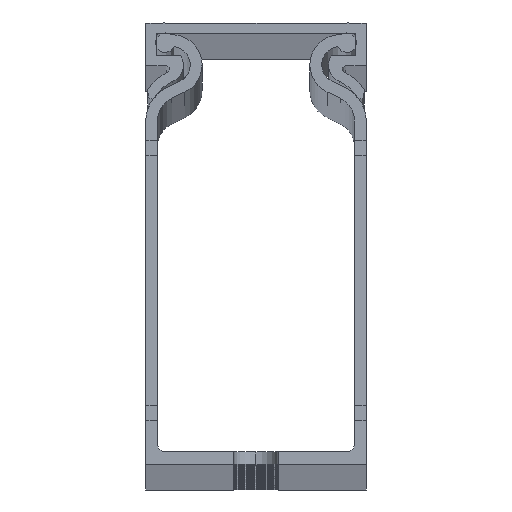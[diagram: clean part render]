
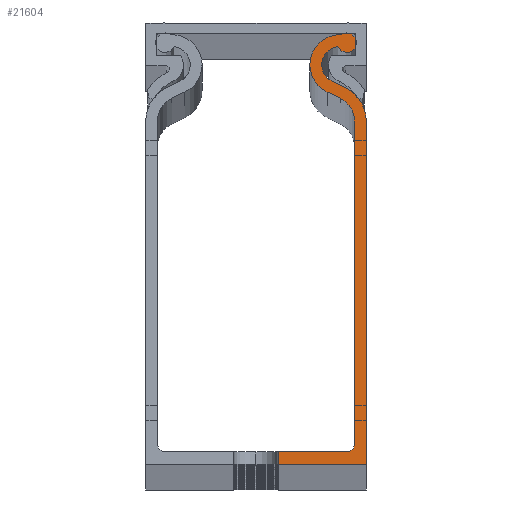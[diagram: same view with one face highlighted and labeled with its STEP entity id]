
A CAD part, top view. The second image highlights one B-rep face of the part: STEP entity #21604.
In plain terms, the highlighted planar face has unit normal (0, 0, 1).
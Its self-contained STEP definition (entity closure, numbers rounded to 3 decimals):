
#107 = DIRECTION ( 'NONE',  ( -0.902, 0.431, 0. ) ) ;
#129 = EDGE_CURVE ( 'NONE', #26634, #10740, #43241, .T. ) ;
#1235 = VERTEX_POINT ( 'NONE', #43440 ) ;
#1735 = CARTESIAN_POINT ( 'NONE',  ( 2575.735, 1291.403, 2000. ) ) ;
#1909 = VERTEX_POINT ( 'NONE', #62178 ) ;
#2011 = CARTESIAN_POINT ( 'NONE',  ( 2579.835, 1291.403, 2000. ) ) ;
#3157 = DIRECTION ( 'NONE',  ( 1., 0., 0. ) ) ;
#3216 = EDGE_CURVE ( 'NONE', #30120, #39913, #60066, .T. ) ;
#3667 = ORIENTED_EDGE ( 'NONE', *, *, #60479, .T. ) ;
#5154 = CARTESIAN_POINT ( 'NONE',  ( 2583.407, 1283.773, 2000. ) ) ;
#5250 = CARTESIAN_POINT ( 'NONE',  ( 2580.757, 1294.406, 2000. ) ) ;
#6027 = EDGE_CURVE ( 'NONE', #38761, #1235, #53145, .T. ) ;
#6162 = DIRECTION ( 'NONE',  ( 1., 0., 0. ) ) ;
#6236 = CARTESIAN_POINT ( 'NONE',  ( 2581.807, 1239.756, 2000. ) ) ;
#6532 = ORIENTED_EDGE ( 'NONE', *, *, #29014, .T. ) ;
#6972 = VECTOR ( 'NONE', #107, 1000. ) ;
#7489 = CARTESIAN_POINT ( 'NONE',  ( 2581.807, 1283.757, 2000. ) ) ;
#9539 = DIRECTION ( 'NONE',  ( 0., -1., 0. ) ) ;
#9692 = CARTESIAN_POINT ( 'NONE',  ( 2578.407, 1283.773, 2000. ) ) ;
#10447 = LINE ( 'NONE', #61932, #21378 ) ;
#10604 = ORIENTED_EDGE ( 'NONE', *, *, #49047, .T. ) ;
#10740 = VERTEX_POINT ( 'NONE', #61675 ) ;
#11398 = CIRCLE ( 'NONE', #18970, 4.1 ) ;
#13336 = PLANE ( 'NONE',  #54721 ) ;
#13870 = ORIENTED_EDGE ( 'NONE', *, *, #129, .T. ) ;
#14141 = DIRECTION ( 'NONE',  ( 0., 0., -1. ) ) ;
#14230 = ORIENTED_EDGE ( 'NONE', *, *, #48244, .T. ) ;
#14289 = CIRCLE ( 'NONE', #25862, 2.5 ) ;
#15825 = DIRECTION ( 'NONE',  ( 0., 0., 1. ) ) ;
#15908 = ORIENTED_EDGE ( 'NONE', *, *, #6027, .T. ) ;
#16112 = ORIENTED_EDGE ( 'NONE', *, *, #61823, .T. ) ;
#16254 = VERTEX_POINT ( 'NONE', #61279 ) ;
#17068 = VECTOR ( 'NONE', #9539, 1000. ) ;
#17217 = CARTESIAN_POINT ( 'NONE',  ( 2583.407, 1237.056, 2000. ) ) ;
#17649 = ORIENTED_EDGE ( 'NONE', *, *, #29771, .T. ) ;
#18636 = LINE ( 'NONE', #33661, #17068 ) ;
#18970 = AXIS2_PLACEMENT_3D ( 'NONE', #2011, #60881, #6162 ) ;
#19787 = ORIENTED_EDGE ( 'NONE', *, *, #51794, .T. ) ;
#19874 = ORIENTED_EDGE ( 'NONE', *, *, #37401, .T. ) ;
#20162 = EDGE_LOOP ( 'NONE', ( #15908, #3667, #10604, #17649, #19874, #61068, #19787, #14230, #13870, #16112, #27792, #40885, #27658, #24804, #6532 ) ) ;
#21378 = VECTOR ( 'NONE', #32348, 1000. ) ;
#21604 = ADVANCED_FACE ( 'NONE', ( #28072 ), #13336, .F. ) ;
#22004 = EDGE_CURVE ( 'NONE', #39913, #63444, #24102, .T. ) ;
#22195 = AXIS2_PLACEMENT_3D ( 'NONE', #39585, #14141, #48671 ) ;
#22797 = LINE ( 'NONE', #37305, #44572 ) ;
#23006 = CARTESIAN_POINT ( 'NONE',  ( 2571.407, 1237.056, 2000. ) ) ;
#23669 = LINE ( 'NONE', #17217, #60212 ) ;
#24085 = CARTESIAN_POINT ( 'NONE',  ( 2578.758, 1289.147, 2000. ) ) ;
#24102 = LINE ( 'NONE', #36727, #48175 ) ;
#24434 = CARTESIAN_POINT ( 'NONE',  ( 2556.007, 1238.756, 2000. ) ) ;
#24804 = ORIENTED_EDGE ( 'NONE', *, *, #53473, .T. ) ;
#25862 = AXIS2_PLACEMENT_3D ( 'NONE', #32665, #46765, #3157 ) ;
#26139 = CIRCLE ( 'NONE', #22195, 1. ) ;
#26634 = VERTEX_POINT ( 'NONE', #38549 ) ;
#26707 = AXIS2_PLACEMENT_3D ( 'NONE', #51150, #60929, #56553 ) ;
#27020 = CARTESIAN_POINT ( 'NONE',  ( 2583.407, 1237.056, 2000. ) ) ;
#27658 = ORIENTED_EDGE ( 'NONE', *, *, #48941, .T. ) ;
#27792 = ORIENTED_EDGE ( 'NONE', *, *, #3216, .T. ) ;
#28072 = FACE_OUTER_BOUND ( 'NONE', #20162, .T. ) ;
#28999 = CARTESIAN_POINT ( 'NONE',  ( 2579.873, 1286.841, 2000. ) ) ;
#29014 = EDGE_CURVE ( 'NONE', #52311, #38761, #26139, .T. ) ;
#29771 = EDGE_CURVE ( 'NONE', #32117, #42671, #10447, .T. ) ;
#30120 = VERTEX_POINT ( 'NONE', #1735 ) ;
#30816 = AXIS2_PLACEMENT_3D ( 'NONE', #41229, #15825, #61277 ) ;
#32117 = VERTEX_POINT ( 'NONE', #27020 ) ;
#32295 = AXIS2_PLACEMENT_3D ( 'NONE', #57516, #37718, #53362 ) ;
#32348 = DIRECTION ( 'NONE',  ( 0., 1., 0. ) ) ;
#32665 = CARTESIAN_POINT ( 'NONE',  ( 2579.835, 1291.403, 2000. ) ) ;
#33661 = CARTESIAN_POINT ( 'NONE',  ( 2571.407, 1294.406, 2000. ) ) ;
#36727 = CARTESIAN_POINT ( 'NONE',  ( 2579.873, 1286.841, 2000. ) ) ;
#37305 = CARTESIAN_POINT ( 'NONE',  ( 2581.807, 1239.756, 2000. ) ) ;
#37401 = EDGE_CURVE ( 'NONE', #42671, #16254, #56496, .T. ) ;
#37718 = DIRECTION ( 'NONE',  ( 0., 0., -1. ) ) ;
#38549 = CARTESIAN_POINT ( 'NONE',  ( 2579.513, 1293.882, 2000. ) ) ;
#38761 = VERTEX_POINT ( 'NONE', #55553 ) ;
#39585 = CARTESIAN_POINT ( 'NONE',  ( 2580.807, 1239.756, 2000. ) ) ;
#39913 = VERTEX_POINT ( 'NONE', #51309 ) ;
#40188 = DIRECTION ( 'NONE',  ( 1., 0., 0. ) ) ;
#40714 = CIRCLE ( 'NONE', #26707, 3.4 ) ;
#40885 = ORIENTED_EDGE ( 'NONE', *, *, #22004, .T. ) ;
#41229 = CARTESIAN_POINT ( 'NONE',  ( 2579.835, 1291.403, 2000. ) ) ;
#42264 = VECTOR ( 'NONE', #59199, 1000. ) ;
#42671 = VERTEX_POINT ( 'NONE', #5154 ) ;
#42841 = DIRECTION ( 'NONE',  ( -1., 0., 0. ) ) ;
#43241 = CIRCLE ( 'NONE', #49357, 1.35 ) ;
#43440 = CARTESIAN_POINT ( 'NONE',  ( 2571.407, 1238.756, 2000. ) ) ;
#43889 = VERTEX_POINT ( 'NONE', #23006 ) ;
#44572 = VECTOR ( 'NONE', #56839, 1000. ) ;
#44978 = DIRECTION ( 'NONE',  ( 0., 0., 1. ) ) ;
#46765 = DIRECTION ( 'NONE',  ( 0., 0., -1. ) ) ;
#46964 = DIRECTION ( 'NONE',  ( 1., 0., 0. ) ) ;
#48175 = VECTOR ( 'NONE', #56503, 1000. ) ;
#48244 = EDGE_CURVE ( 'NONE', #1909, #26634, #14289, .T. ) ;
#48671 = DIRECTION ( 'NONE',  ( 1., 0., 0. ) ) ;
#48941 = EDGE_CURVE ( 'NONE', #63444, #57254, #40714, .T. ) ;
#49047 = EDGE_CURVE ( 'NONE', #43889, #32117, #23669, .T. ) ;
#49219 = DIRECTION ( 'NONE',  ( 0., 0., 1. ) ) ;
#49357 = AXIS2_PLACEMENT_3D ( 'NONE', #5250, #44978, #40188 ) ;
#51150 = CARTESIAN_POINT ( 'NONE',  ( 2578.407, 1283.773, 2000. ) ) ;
#51309 = CARTESIAN_POINT ( 'NONE',  ( 2578.068, 1287.703, 2000. ) ) ;
#51794 = EDGE_CURVE ( 'NONE', #51969, #1909, #64432, .T. ) ;
#51969 = VERTEX_POINT ( 'NONE', #24085 ) ;
#52179 = AXIS2_PLACEMENT_3D ( 'NONE', #9692, #49219, #54456 ) ;
#52311 = VERTEX_POINT ( 'NONE', #6236 ) ;
#53145 = LINE ( 'NONE', #24434, #42264 ) ;
#53362 = DIRECTION ( 'NONE',  ( 1., 0., 0. ) ) ;
#53473 = EDGE_CURVE ( 'NONE', #57254, #52311, #22797, .T. ) ;
#54456 = DIRECTION ( 'NONE',  ( 1., 0., 0. ) ) ;
#54721 = AXIS2_PLACEMENT_3D ( 'NONE', #57633, #62659, #42841 ) ;
#55220 = CARTESIAN_POINT ( 'NONE',  ( 2578.758, 1289.147, 2000. ) ) ;
#55553 = CARTESIAN_POINT ( 'NONE',  ( 2580.807, 1238.756, 2000. ) ) ;
#56413 = EDGE_CURVE ( 'NONE', #16254, #51969, #60596, .T. ) ;
#56496 = CIRCLE ( 'NONE', #52179, 5. ) ;
#56503 = DIRECTION ( 'NONE',  ( 0.902, -0.431, 0. ) ) ;
#56553 = DIRECTION ( 'NONE',  ( 1., 0., 0. ) ) ;
#56839 = DIRECTION ( 'NONE',  ( 0., -1., 0. ) ) ;
#57254 = VERTEX_POINT ( 'NONE', #7489 ) ;
#57516 = CARTESIAN_POINT ( 'NONE',  ( 2579.835, 1291.403, 2000. ) ) ;
#57633 = CARTESIAN_POINT ( 'NONE',  ( 2556.058, 1294.406, 2000. ) ) ;
#59199 = DIRECTION ( 'NONE',  ( -1., 0., 0. ) ) ;
#60066 = CIRCLE ( 'NONE', #30816, 4.1 ) ;
#60212 = VECTOR ( 'NONE', #46964, 1000. ) ;
#60479 = EDGE_CURVE ( 'NONE', #1235, #43889, #18636, .T. ) ;
#60596 = LINE ( 'NONE', #55220, #6972 ) ;
#60881 = DIRECTION ( 'NONE',  ( 0., 0., 1. ) ) ;
#60929 = DIRECTION ( 'NONE',  ( 0., 0., -1. ) ) ;
#61068 = ORIENTED_EDGE ( 'NONE', *, *, #56413, .T. ) ;
#61277 = DIRECTION ( 'NONE',  ( 1., 0., 0. ) ) ;
#61279 = CARTESIAN_POINT ( 'NONE',  ( 2580.562, 1288.285, 2000. ) ) ;
#61675 = CARTESIAN_POINT ( 'NONE',  ( 2579.967, 1295.501, 2000. ) ) ;
#61823 = EDGE_CURVE ( 'NONE', #10740, #30120, #11398, .T. ) ;
#61932 = CARTESIAN_POINT ( 'NONE',  ( 2583.407, 1283.773, 2000. ) ) ;
#62178 = CARTESIAN_POINT ( 'NONE',  ( 2577.335, 1291.403, 2000. ) ) ;
#62659 = DIRECTION ( 'NONE',  ( 0., 0., -1. ) ) ;
#63444 = VERTEX_POINT ( 'NONE', #28999 ) ;
#64432 = CIRCLE ( 'NONE', #32295, 2.5 ) ;
